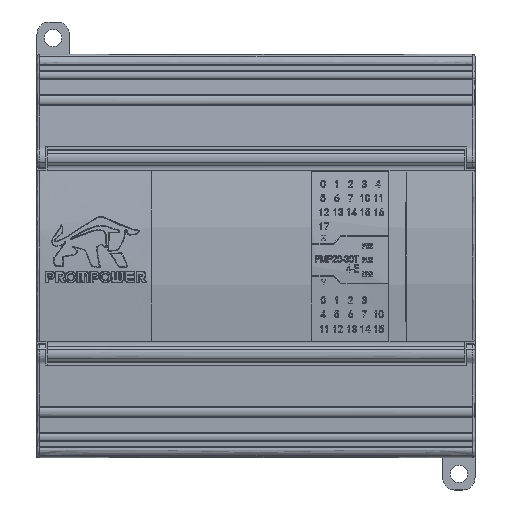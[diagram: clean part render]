
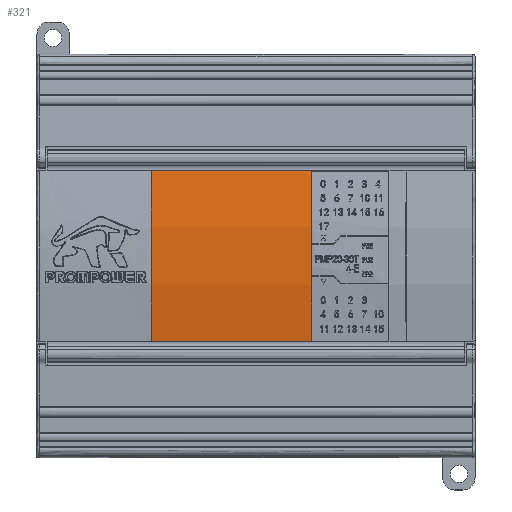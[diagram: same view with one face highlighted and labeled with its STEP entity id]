
A CAD part, front view. The second image highlights one B-rep face of the part: STEP entity #321.
In plain terms, the highlighted free-form (B-spline) face has degree [1, 3] with [2, 4] control points.
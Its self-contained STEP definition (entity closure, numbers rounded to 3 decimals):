
#321=ADVANCED_FACE('',(#26801),#26803,.T.);
#26801=FACE_BOUND('',#26802,.T.);
#26802=EDGE_LOOP('',(#67122,#67123,#67124,#67125));
#26803=(BOUNDED_SURFACE()B_SPLINE_SURFACE(1,3,(
(#26804,#26805,#26806,#26807),
(#26808,#26809,#26810,#26811)),
.UNSPECIFIED.,.F.,.F.,.F.)B_SPLINE_SURFACE_WITH_KNOTS((2,2),
(4,4),
(0.,39.766),
(0.,42.836),
.UNSPECIFIED.)GEOMETRIC_REPRESENTATION_ITEM()RATIONAL_B_SPLINE_SURFACE((
(1.,0.991,0.991,1.),
(1.,0.991,0.991,1.)))REPRESENTATION_ITEM(
'')SURFACE());
#26804=CARTESIAN_POINT('',(-134.717,37.801,67.882));
#26805=CARTESIAN_POINT('',(-134.717,35.434,81.963));
#26806=CARTESIAN_POINT('',(-134.717,35.434,96.241));
#26807=CARTESIAN_POINT('',(-134.717,37.801,110.322));
#26808=CARTESIAN_POINT('',(-94.951,37.801,67.882));
#26809=CARTESIAN_POINT('',(-94.951,35.433,81.963));
#26810=CARTESIAN_POINT('',(-94.951,35.433,96.241));
#26811=CARTESIAN_POINT('',(-94.951,37.8,110.322));
#67122=ORIENTED_EDGE('',*,*,#91268,.T.);
#67123=ORIENTED_EDGE('',*,*,#91275,.F.);
#67124=ORIENTED_EDGE('',*,*,#91276,.T.);
#67125=ORIENTED_EDGE('',*,*,#91184,.F.);
#91184=EDGE_CURVE('',#99390,#99392,#99393,.T.);
#91268=EDGE_CURVE('',#99390,#99540,#99543,.T.);
#91275=EDGE_CURVE('',#99555,#99540,#99556,.T.);
#91276=EDGE_CURVE('',#99555,#99392,#99557,.T.);
#99390=VERTEX_POINT('',#115205);
#99392=VERTEX_POINT('',#115210);
#99393=B_SPLINE_CURVE_WITH_KNOTS('',3,
(#115211,#115212,#115213,#115214,#115215,#115216,#115217,#115218,#115219),
.UNSPECIFIED.,.F.,.F.,
(4,1,1,1,1,1,4),
(0.,0.196,0.376,0.534,0.714,0.866,
1.),
.UNSPECIFIED.);
#99540=VERTEX_POINT('',#125625);
#99543=B_SPLINE_CURVE_WITH_KNOTS('',3,
(#125707,#125708,#125709,#125710),
.UNSPECIFIED.,.F.,.F.,
(4,4),
(0.,1.),
.UNSPECIFIED.);
#99555=VERTEX_POINT('',#125758);
#99556=(BOUNDED_CURVE()B_SPLINE_CURVE(3,
(#125759,#125760,#125761,#125762),
.UNSPECIFIED.,.F.,.F.)B_SPLINE_CURVE_WITH_KNOTS((4,4),
(0.,1.),
.UNSPECIFIED.)CURVE()GEOMETRIC_REPRESENTATION_ITEM()RATIONAL_B_SPLINE_CURVE((1.,
0.991,0.991,1.))REPRESENTATION_ITEM(''));
#99557=B_SPLINE_CURVE_WITH_KNOTS('',3,
(#125763,#125764,#125765,#125766),
.UNSPECIFIED.,.F.,.F.,
(4,4),
(0.,1.),
.UNSPECIFIED.);
#115205=CARTESIAN_POINT('',(-134.717,37.801,67.882));
#115210=CARTESIAN_POINT('',(-134.717,37.801,110.322));
#115211=CARTESIAN_POINT('',(-134.717,37.801,67.882));
#115212=CARTESIAN_POINT('',(-134.717,37.342,70.612));
#115213=CARTESIAN_POINT('',(-134.717,36.627,75.906));
#115214=CARTESIAN_POINT('',(-134.717,36.084,83.493));
#115215=CARTESIAN_POINT('',(-134.717,35.974,90.874));
#115216=CARTESIAN_POINT('',(-134.717,36.263,97.85));
#115217=CARTESIAN_POINT('',(-134.717,36.903,104.441));
#115218=CARTESIAN_POINT('',(-134.717,37.487,108.458));
#115219=CARTESIAN_POINT('',(-134.717,37.801,110.322));
#125625=CARTESIAN_POINT('',(-94.951,37.801,67.882));
#125707=CARTESIAN_POINT('',(-134.717,37.801,67.882));
#125708=CARTESIAN_POINT('',(-121.462,37.801,67.882));
#125709=CARTESIAN_POINT('',(-108.206,37.801,67.882));
#125710=CARTESIAN_POINT('',(-94.951,37.801,67.882));
#125758=CARTESIAN_POINT('',(-94.951,37.801,110.322));
#125759=CARTESIAN_POINT('',(-94.951,37.8,110.322));
#125760=CARTESIAN_POINT('',(-94.951,35.433,96.241));
#125761=CARTESIAN_POINT('',(-94.951,35.433,81.963));
#125762=CARTESIAN_POINT('',(-94.951,37.8,67.882));
#125763=CARTESIAN_POINT('',(-94.951,37.801,110.322));
#125764=CARTESIAN_POINT('',(-108.207,37.801,110.322));
#125765=CARTESIAN_POINT('',(-121.462,37.801,110.322));
#125766=CARTESIAN_POINT('',(-134.717,37.801,110.322));
